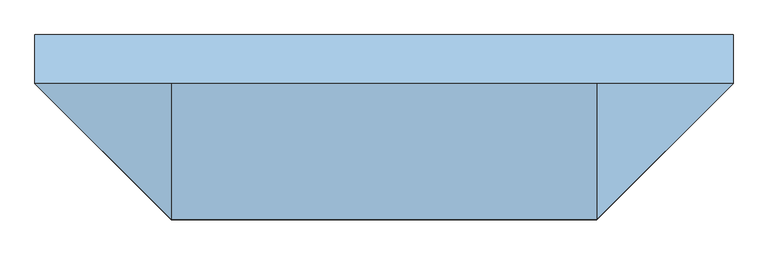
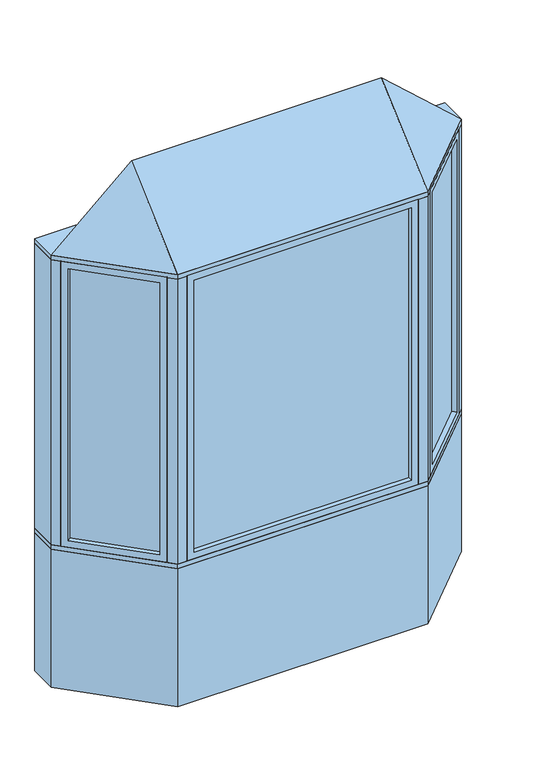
"""IFC4 building model written with IfcOpenShell, lengths in millimetres: window geometry, Pollard_Windows_Tudor Casement Bows and Bays : AML-BAY 45 AFR0516-12-500."""

from ifc_helpers import new_model, si_unit, frame, origin, origin_with_axes, place, context, project, spatial, polyline, outline, extrude, faceted_brep, source, transform, mapped, element, save


def window_9a71cae8(model_context):
    return source(origin(), model_context, "Body", "SolidModel", [
        extrude(outline(polyline([(1024.0964271, -104.763169), (698.324814, -430.5347822), (694.7327115, -426.9426797), (1020.5043247, -101.1710666), (1024.0964271, -104.763169)])), frame((0.0, 0.0, 823.1628), z_axis=(0.0, 0.0, 1.0), x_axis=(1.0, 0.0, 0.0)), (0.0, 0.0, 1.0), 1553.6704),
        faceted_brep([(1015.116171, -113.7434252, 835.8628), (1033.0766833, -131.7039374, 835.8628), (1033.0766833, -131.7039374, 2364.1332), (1015.116171, -113.7434252, 2364.1332), (1020.5043247, -101.1710666, 823.1628), (1024.0964271, -104.763169, 823.1628), (1024.0964271, -104.763169, 2376.8332), (1020.5043247, -101.1710666, 2376.8332), (993.5635563, -92.1908105, 835.8628), (1011.5240686, -110.1513227, 835.8628), (1011.5240686, -110.1513227, 2364.1332), (993.5635563, -92.1908105, 2364.1332), (1058.4369265, -106.3436941, 799.998), (1018.9237996, -66.8305672, 799.998), (1018.9237996, -66.8305672, 2399.998), (1058.4369265, -106.3436941, 2399.998), (725.2655823, -439.5150383, 2364.1332), (707.3050701, -421.5545261, 2364.1332), (698.324814, -430.5347822, 2376.8332), (694.7327115, -426.9426797, 2376.8332), (703.7129677, -417.9624236, 2364.1332), (685.7524554, -400.0019114, 2364.1332), (660.3922121, -425.3621547, 2399.998), (699.9053391, -464.8752816, 2399.998), (725.2655823, -439.5150383, 835.8628), (707.3050701, -421.5545261, 835.8628), (698.324814, -430.5347822, 823.1628), (694.7327115, -426.9426797, 823.1628), (703.7129677, -417.9624236, 835.8628), (685.7524554, -400.0019114, 835.8628), (660.3922121, -425.3621547, 799.998), (699.9053391, -464.8752816, 799.998)], [[[0, 1, 2, 3]], [[4, 5, 6, 7]], [[8, 9, 10, 11]], [[12, 13, 14, 15]], [[3, 2, 16, 17]], [[7, 6, 18, 19]], [[11, 10, 20, 21]], [[15, 14, 22, 23]], [[17, 16, 24, 25]], [[19, 18, 26, 27]], [[21, 20, 28, 29]], [[23, 22, 30, 31]], [[25, 24, 1, 0]], [[5, 26, 18, 6], [3, 17, 25, 0]], [[27, 26, 5, 4]], [[7, 19, 27, 4], [9, 28, 20, 10]], [[29, 28, 9, 8]], [[13, 30, 22, 14], [11, 21, 29, 8]], [[31, 30, 13, 12]], [[15, 23, 31, 12], [1, 24, 16, 2]]]),
        extrude(outline(polyline([(-698.324814, -430.5347822), (-1024.0964271, -104.763169), (-1020.5043247, -101.1710666), (-694.7327115, -426.9426797), (-698.324814, -430.5347822)])), frame((0.0, 0.0, 823.1628), z_axis=(0.0, 0.0, 1.0), x_axis=(1.0, 0.0, 0.0)), (0.0, 0.0, 1.0), 1553.6704),
        faceted_brep([(-703.7129677, -417.9624236, 2364.1332), (-685.7524554, -400.0019114, 2364.1332), (-685.7524554, -400.0019114, 835.8628), (-703.7129677, -417.9624236, 835.8628), (-698.324814, -430.5347822, 2376.8332), (-694.7327115, -426.9426797, 2376.8332), (-694.7327115, -426.9426797, 823.1628), (-698.324814, -430.5347822, 823.1628), (-725.2655823, -439.5150383, 2364.1332), (-707.3050701, -421.5545261, 2364.1332), (-707.3050701, -421.5545261, 835.8628), (-725.2655823, -439.5150383, 835.8628), (-660.3922121, -425.3621547, 2399.998), (-699.9053391, -464.8752816, 2399.998), (-699.9053391, -464.8752816, 799.998), (-660.3922121, -425.3621547, 799.998), (-993.5635563, -92.1908105, 835.8628), (-1011.5240686, -110.1513227, 835.8628), (-1020.5043247, -101.1710666, 823.1628), (-1024.0964271, -104.763169, 823.1628), (-1015.116171, -113.7434252, 835.8628), (-1033.0766833, -131.7039374, 835.8628), (-1058.4369265, -106.3436941, 799.998), (-1018.9237996, -66.8305672, 799.998), (-993.5635563, -92.1908105, 2364.1332), (-1011.5240686, -110.1513227, 2364.1332), (-1020.5043247, -101.1710666, 2376.8332), (-1024.0964271, -104.763169, 2376.8332), (-1015.116171, -113.7434252, 2364.1332), (-1033.0766833, -131.7039374, 2364.1332), (-1058.4369265, -106.3436941, 2399.998), (-1018.9237996, -66.8305672, 2399.998)], [[[0, 1, 2, 3]], [[4, 5, 6, 7]], [[8, 9, 10, 11]], [[12, 13, 14, 15]], [[3, 2, 16, 17]], [[7, 6, 18, 19]], [[11, 10, 20, 21]], [[15, 14, 22, 23]], [[17, 16, 24, 25]], [[19, 18, 26, 27]], [[21, 20, 28, 29]], [[23, 22, 30, 31]], [[15, 23, 31, 12], [1, 24, 16, 2]], [[25, 24, 1, 0]], [[5, 26, 18, 6], [3, 17, 25, 0]], [[27, 26, 5, 4]], [[7, 19, 27, 4], [9, 28, 20, 10]], [[29, 28, 9, 8]], [[13, 30, 22, 14], [11, 21, 29, 8]], [[31, 30, 13, 12]]]),
        extrude(outline(polyline([(591.3852, -474.8306207), (-591.3852, -474.8306207), (-591.3852, -469.7506207), (591.3852, -469.7506207), (591.3852, -474.8306207)])), frame((0.0, 0.0, 823.1628), z_axis=(0.0, 0.0, 1.0), x_axis=(1.0, 0.0, 0.0)), (0.0, 0.0, 1.0), 1553.6704),
        faceted_brep([(578.6852, -474.8306207, 835.8628), (578.6852, -500.2306207, 835.8628), (578.6852, -500.2306207, 2364.1332), (578.6852, -474.8306207, 2364.1332), (591.3852, -469.7506207, 823.1628), (591.3852, -474.8306207, 823.1628), (591.3852, -474.8306207, 2376.8332), (591.3852, -469.7506207, 2376.8332), (578.6852, -444.3506207, 835.8628), (578.6852, -469.7506207, 835.8628), (578.6852, -469.7506207, 2364.1332), (578.6852, -444.3506207, 2364.1332), (614.55, -500.2306207, 799.998), (614.55, -444.3506207, 799.998), (614.55, -444.3506207, 2399.998), (614.55, -500.2306207, 2399.998), (-578.6852, -500.2306207, 2364.1332), (-578.6852, -474.8306207, 2364.1332), (-591.3852, -474.8306207, 2376.8332), (-591.3852, -469.7506207, 2376.8332), (-578.6852, -469.7506207, 2364.1332), (-578.6852, -444.3506207, 2364.1332), (-614.55, -444.3506207, 2399.998), (-614.55, -500.2306207, 2399.998), (-578.6852, -500.2306207, 835.8628), (-578.6852, -474.8306207, 835.8628), (-591.3852, -474.8306207, 823.1628), (-591.3852, -469.7506207, 823.1628), (-578.6852, -469.7506207, 835.8628), (-578.6852, -444.3506207, 835.8628), (-614.55, -444.3506207, 799.998), (-614.55, -500.2306207, 799.998)], [[[0, 1, 2, 3]], [[4, 5, 6, 7]], [[8, 9, 10, 11]], [[12, 13, 14, 15]], [[3, 2, 16, 17]], [[7, 6, 18, 19]], [[11, 10, 20, 21]], [[15, 14, 22, 23]], [[17, 16, 24, 25]], [[19, 18, 26, 27]], [[21, 20, 28, 29]], [[23, 22, 30, 31]], [[15, 23, 31, 12], [1, 24, 16, 2]], [[25, 24, 1, 0]], [[5, 26, 18, 6], [3, 17, 25, 0]], [[27, 26, 5, 4]], [[7, 19, 27, 4], [9, 28, 20, 10]], [[29, 28, 9, 8]], [[13, 30, 22, 14], [11, 21, 29, 8]], [[31, 30, 13, 12]]]),
        faceted_brep([(1090.0, -74.7806207, 2425.398), (664.55, -500.2306207, 2425.398), (-664.55, -500.2306207, 2425.398), (-1090.0, -74.7806207, 2425.398), (-664.55, -74.7806207, 2806.398), (664.55, -74.7806207, 2806.398)], [[[0, 1, 2, 3]], [[3, 2, 4]], [[2, 1, 5, 4]], [[1, 0, 5]], [[0, 3, 4, 5]]]),
        extrude(outline(polyline([(-1090.0, 77.6193793), (1090.0, 77.6193793), (1090.0, -74.7806207), (664.55, -500.2306207), (-664.55, -500.2306207), (-1090.0, -74.7806207), (-1090.0, 77.6193793)])), frame((0.0, 0.0, 2399.998), z_axis=(0.0, 0.0, 1.0), x_axis=(1.0, 0.0, 0.0)), (0.0, 0.0, 1.0), 25.4),
        extrude(outline(polyline([(-1090.0, -74.7806207), (-1090.0, 77.6193793), (-1026.8738531, 77.6193793), (-1026.8738531, -74.7806207), (-1058.4369265, -106.3436941), (-1090.0, -74.7806207)])), frame((0.0, 0.0, 799.998), z_axis=(0.0, 0.0, 1.0), x_axis=(1.0, 0.0, 0.0)), (0.0, 0.0, 1.0), 1600.0),
        extrude(outline(polyline([(1090.0, 77.6193793), (1090.0, -74.7806207), (1058.4369265, -106.3436941), (1026.8738531, -74.7806207), (1026.8738531, 77.6193793), (1090.0, 77.6193793)])), frame((0.0, 0.0, 799.998), z_axis=(0.0, 0.0, 1.0), x_axis=(1.0, 0.0, 0.0)), (0.0, 0.0, 1.0), 1600.0),
        extrude(outline(polyline([(664.55, -500.2306207), (614.55, -500.2306207), (614.55, -450.2306207), (643.8393219, -450.2306207), (664.55, -429.5199425), (699.9053391, -464.8752816), (664.55, -500.2306207)])), frame((0.0, 0.0, 799.998), z_axis=(0.0, 0.0, 1.0), x_axis=(1.0, 0.0, 0.0)), (0.0, 0.0, 1.0), 1600.0),
        extrude(outline(polyline([(-664.55, -500.2306207), (-699.9053391, -464.8752816), (-664.55, -429.5199425), (-643.8393219, -450.2306207), (-614.55, -450.2306207), (-614.55, -500.2306207), (-664.55, -500.2306207)])), frame((0.0, 0.0, 799.998), z_axis=(0.0, 0.0, 1.0), x_axis=(1.0, 0.0, 0.0)), (0.0, 0.0, 1.0), 1600.0),
        extrude(outline(polyline([(-664.55, -500.2306207), (-1090.0, -74.7806207), (-1090.0, 77.6193793), (-1026.8738531, 77.6193793), (-601.4238531, -347.8306207), (601.4238531, -347.8306207), (1026.8738531, 77.6193793), (1090.0, 77.6193793), (1090.0, -74.7806207), (664.55, -500.2306207), (-664.55, -500.2306207)])), frame((0.0, 0.0, 774.598), z_axis=(0.0, 0.0, 1.0), x_axis=(1.0, 0.0, 0.0)), (0.0, 0.0, 1.0), 25.4),
        extrude(outline(polyline([(-1090.0, -74.7806207), (-1090.0, 77.6193793), (-1026.8738531, 77.6193793), (-601.4238531, -347.8306207), (601.4238531, -347.8306207), (1026.8738531, 77.6193793), (1090.0, 77.6193793), (1090.0, -74.7806207), (664.55, -500.2306207), (-664.55, -500.2306207), (-1090.0, -74.7806207)])), origin_with_axes(), (0.0, 0.0, 1.0), 774.598),
    ])


if __name__ == "__main__":
    model = new_model("IFC4")
    model_context = context("Model", 3, world=origin())
    ifc_project = project(units=[si_unit("LENGTHUNIT", "METRE", prefix="MILLI")], contexts=[model_context])
    site = spatial("IfcSite", under=ifc_project)
    building = spatial("IfcBuilding", under=site)
    placement = place(None, origin())
    window_shape = window_9a71cae8(model_context)
    element("IfcWindow", 1, ObjectType="Pollard_Windows_Tudor Casement Bows and Bays : AML-BAY 45 AFR0516-12-500", at=placement, inside=building, context=model_context, shape_type="MappedRepresentation", body=[
        mapped(window_shape, transform((0.0, 0.0, 0.0), x_axis=(1.0, 0.0, 0.0), y_axis=(0.0, 1.0, 0.0), z_axis=(0.0, 0.0, 1.0))),
    ])
    save(model, "model.ifc")
